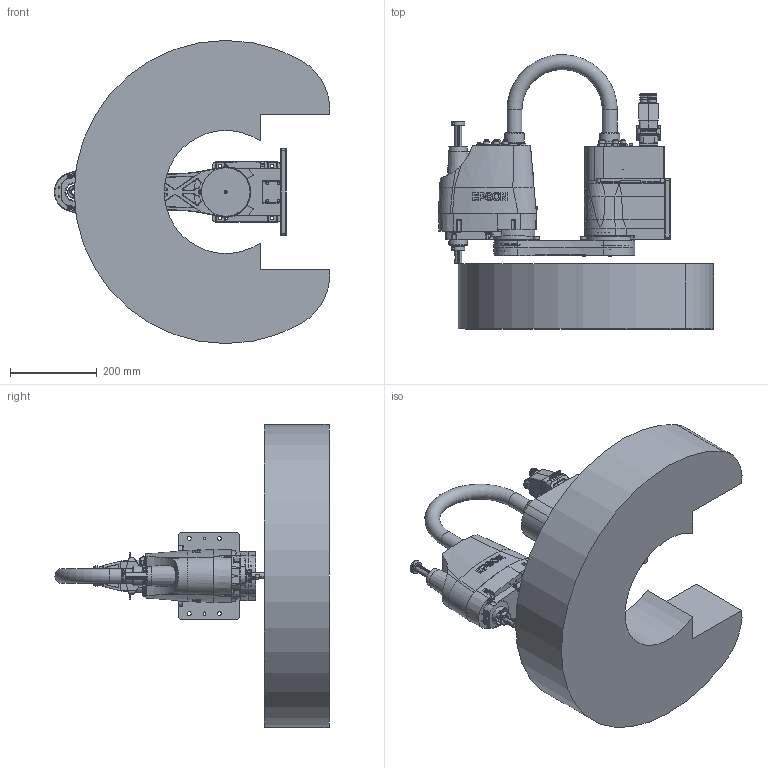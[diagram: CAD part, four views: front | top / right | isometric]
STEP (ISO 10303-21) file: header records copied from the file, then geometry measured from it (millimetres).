
FILE_DESCRIPTION( ( 'STEP AP214' ), '1' );
FILE_NAME( 'C:/Users/9607552/Desktop/GX4-A/GX4-A351EMS-W.stp', '2023-04-07T05:08:48', ( '' ), ( '' ), ' ', 'PARTsolutions', ' ' );
FILE_SCHEMA( ( 'AUTOMOTIVE_DESIGN { 1 0 10303 214 1 1 1 1 }' ) );
Length unit declared in the file: millimetre
Products named in the file (8): GX4-A351EMS-W; _A301SM-b; _A351SM_J1_ARM; _A251S-a; _A351SM_CONDUIT; _A251S; _Straight; _GX4-29_WS
Assembly tree (7 placements, depth 2):
  GX4-A351EMS-W
    _A301SM-b
    _A351SM_J1_ARM
    _A251S-a
    _A351SM_CONDUIT
    _A251S
    _Straight
    _GX4-29_WS
Bounding box: 635.24 x 632.93 x 700 mm (x, y, z)
Volume: 44907127.4 mm3; surface area: 1685407.2 mm2
Topology: 7 solids, 7 shells, 3648 faces, 9210 edges, 6017 vertices
Faces by surface type: plane 2124, cylinder 989, cone 342, bspline 99, torus 93, sphere 1
Full cylindrical faces by diameter (mm): 1 x30, 1.13 x55, 1.18 x55, 2.013 x4, 2.459 x4, 2.5 x16, 3 x34, 3.2 x4, 3.242 x1, 3.3 x30, 3.4 x32, 3.5 x12, 4 x8, 4.5 x20, 4.8 x8, 4.917 x4, 5.34 x8, 5.4 x10, 5.5 x24, 5.6 x4, 5.68 x4, 6 x21, 6.5 x12, 6.647 x7, 6.8 x4, 7 x37, 7.647 x4, 7.8 x4, 8 x12, 9 x8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
Entity records: 140286 total; most frequent: CARTESIAN_POINT 28409, ORIENTED_EDGE 16560, DIRECTION 16066, EDGE_CURVE 8280, AXIS2_PLACEMENT_3D 6109, VERTEX_POINT 5884, EDGE_LOOP 5099, FACE_OUTER_BOUND 4260
